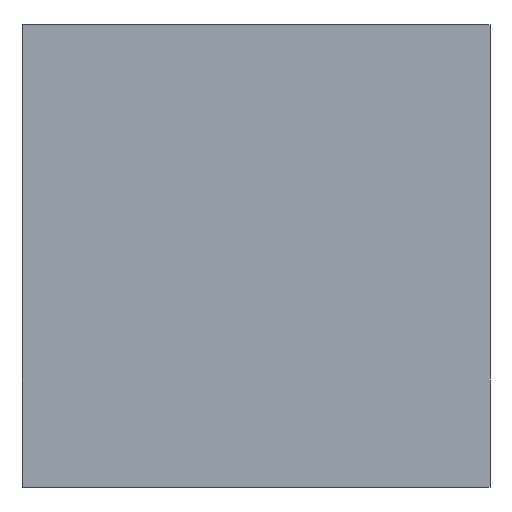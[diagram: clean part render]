
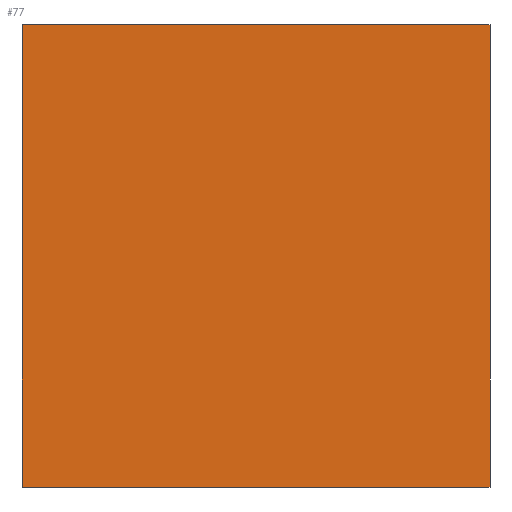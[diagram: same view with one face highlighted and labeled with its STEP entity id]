
A CAD part, top view. The second image highlights one B-rep face of the part: STEP entity #77.
In plain terms, the highlighted planar face has unit normal (0, 0, 1).
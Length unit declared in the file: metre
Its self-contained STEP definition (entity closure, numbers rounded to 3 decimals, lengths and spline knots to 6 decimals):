
#12=PLANE('',#97);
#17=LINE('',#133,#24);
#18=LINE('',#135,#25);
#19=LINE('',#137,#26);
#20=LINE('',#139,#27);
#24=VECTOR('',#110,1.);
#25=VECTOR('',#113,1.);
#26=VECTOR('',#114,1.);
#27=VECTOR('',#115,1.);
#34=ORIENTED_EDGE('',*,*,#52,.T.);
#35=ORIENTED_EDGE('',*,*,#51,.T.);
#36=ORIENTED_EDGE('',*,*,#53,.T.);
#37=ORIENTED_EDGE('',*,*,#54,.F.);
#51=EDGE_CURVE('',#57,#60,#17,.T.);
#52=EDGE_CURVE('',#61,#57,#18,.T.);
#53=EDGE_CURVE('',#60,#62,#19,.T.);
#54=EDGE_CURVE('',#61,#62,#20,.T.);
#57=VERTEX_POINT('',#127);
#60=VERTEX_POINT('',#132);
#61=VERTEX_POINT('',#136);
#62=VERTEX_POINT('',#138);
#66=EDGE_LOOP('',(#34,#35,#36,#37));
#71=FACE_BOUND('',#66,.T.);
#77=ADVANCED_FACE('',(#71),#12,.T.);
#97=AXIS2_PLACEMENT_3D('',#134,#111,#112);
#110=DIRECTION('',(0.,1.,0.));
#111=DIRECTION('',(0.,0.,1.));
#112=DIRECTION('',(1.,0.,0.));
#113=DIRECTION('',(1.,0.,0.));
#114=DIRECTION('',(-1.,0.,0.));
#115=DIRECTION('',(0.,1.,0.));
#127=CARTESIAN_POINT('',(-0.017413,-0.027049,0.057068));
#132=CARTESIAN_POINT('',(-0.017413,-0.012146,0.057068));
#133=CARTESIAN_POINT('',(-0.017413,-0.03,0.057068));
#134=CARTESIAN_POINT('',(0.,0.00509,0.057068));
#135=CARTESIAN_POINT('',(0.06275,-0.027049,0.057068));
#136=CARTESIAN_POINT('',(-0.0325,-0.027049,0.057068));
#137=CARTESIAN_POINT('',(0.,-0.012146,0.057068));
#138=CARTESIAN_POINT('',(-0.0325,-0.012146,0.057068));
#139=CARTESIAN_POINT('',(-0.0325,-0.0423,0.057068));
